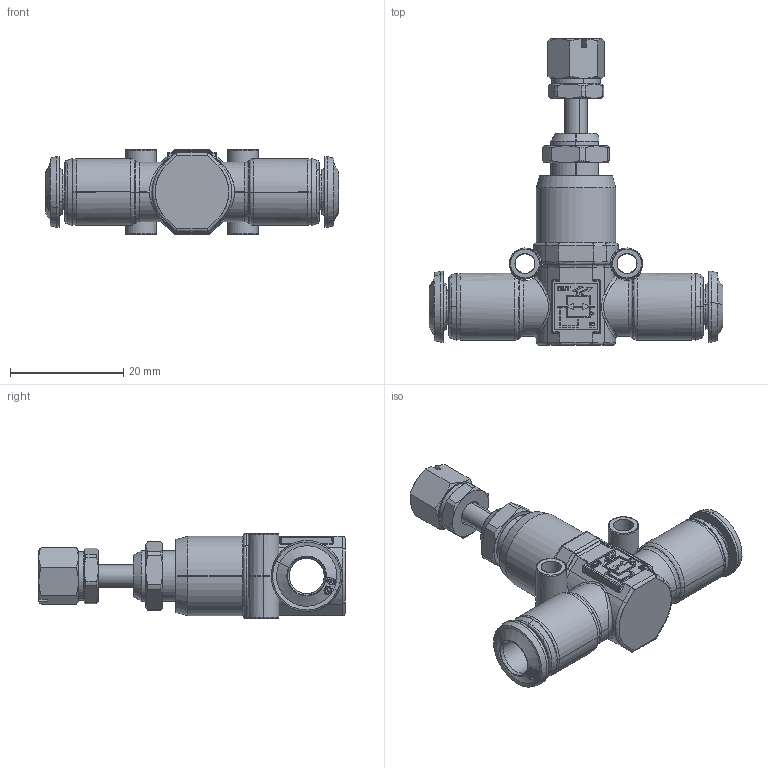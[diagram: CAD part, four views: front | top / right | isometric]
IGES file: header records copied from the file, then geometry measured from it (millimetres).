
Start section: SolidWorks IGES file using analytic representation for surfaces
Global section: file name: K:\Disegni Esecutivi\Regolatori\Regolatori di pressione in linea\Ø6\ASSIEMI_IGES\5597000002A.IGS; native system: SolidWorks 2015; preprocessor: SolidWorks 2015; author: cad06; date: 150708.081308; units: millimetre
Bounding box: 51.8 x 54.05 x 15 mm (x, y, z)
Surface area: 5669.9 mm2 (no closed solid volume)
Topology: 0 solids, 0 shells, 606 faces, 5603 edges, 5592 vertices
Faces by surface type: bspline 385, revolution 221
